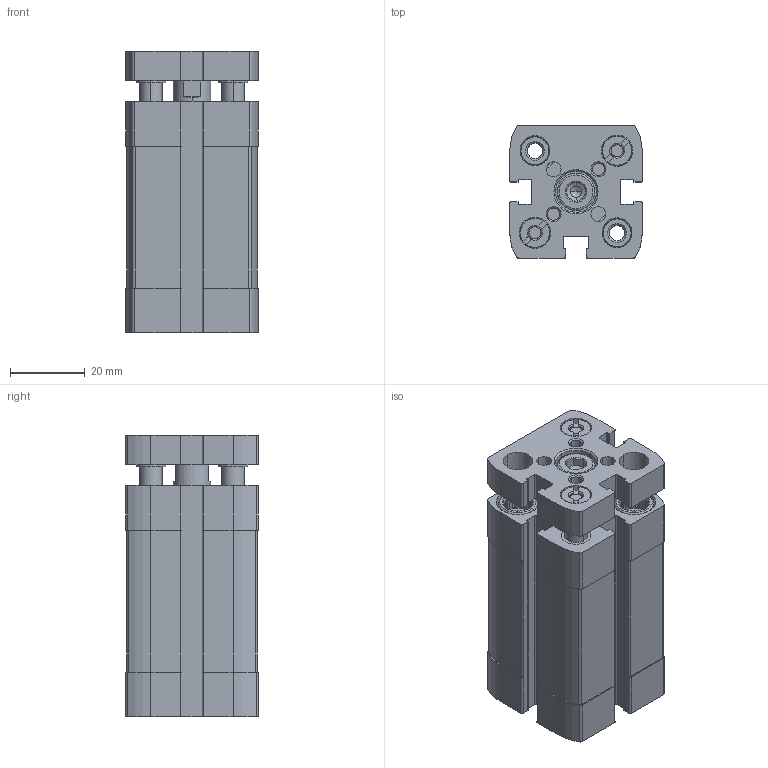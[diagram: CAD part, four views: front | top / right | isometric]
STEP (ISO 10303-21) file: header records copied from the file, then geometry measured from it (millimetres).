
FILE_DESCRIPTION (( 'STEP AP203' ), '1' );
FILE_NAME ('CCNG20-25.STEP', '2017-04-13T18:03:47', ( '' ), ( '' ), 'SwSTEP 2.0', 'SolidWorks 2016', '' );
FILE_SCHEMA (( 'CONFIG_CONTROL_DESIGN' ));
Length unit declared in the file: millimetre
Products named in the file (3): CCNG-20-25--(KS); CCNG20-25; CCNG-20-25--(Z)
Assembly tree (2 placements, depth 2):
  CCNG20-25
    CCNG-20-25--(Z)
    CCNG-20-25--(KS)
Bounding box: 35.5 x 35.5 x 75.5 mm (x, y, z)
Volume: 66553.4 mm3; surface area: 31862 mm2
Topology: 2 solids, 6 shells, 598 faces, 1581 edges, 1031 vertices
Faces by surface type: plane 301, cylinder 214, cone 77, bspline 6
Entity records: 19230 total; most frequent: CARTESIAN_POINT 3748, DIRECTION 3275, ORIENTED_EDGE 3158, EDGE_CURVE 1579, AXIS2_PLACEMENT_3D 1232, VERTEX_POINT 1031, VECTOR 811, LINE 811
